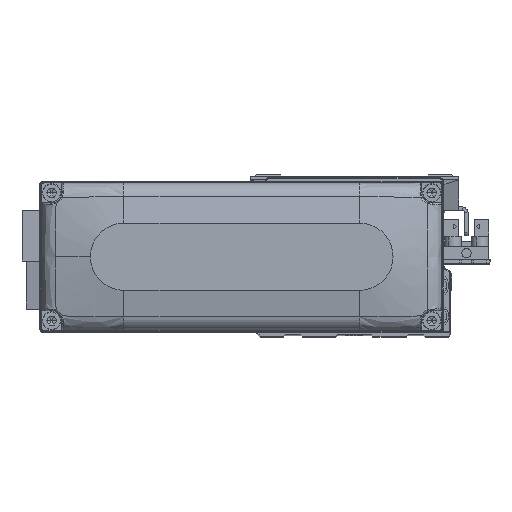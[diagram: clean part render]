
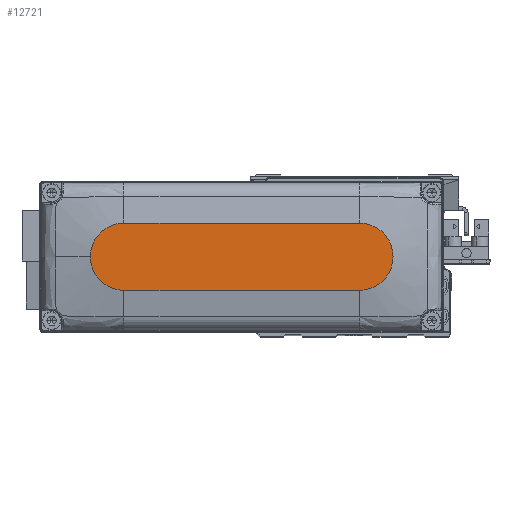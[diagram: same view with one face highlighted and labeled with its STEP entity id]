
A CAD part, top view. The second image highlights one B-rep face of the part: STEP entity #12721.
In plain terms, the highlighted planar face has unit normal (0, 0, 1).
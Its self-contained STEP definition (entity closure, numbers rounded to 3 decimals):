
#90 = DIRECTION ( 'NONE',  ( 1., 0., 0. ) ) ;
#801 = CARTESIAN_POINT ( 'NONE',  ( 0., 0., 28. ) ) ;
#841 = DIRECTION ( 'NONE',  ( 1., 0., 0. ) ) ;
#3408 = CARTESIAN_POINT ( 'NONE',  ( -35., 10., 28. ) ) ;
#3658 = DIRECTION ( 'NONE',  ( 1., 0., 0. ) ) ;
#4892 = EDGE_CURVE ( 'NONE', #11598, #23067, #16542, .T. ) ;
#5017 = DIRECTION ( 'NONE',  ( 0., 0., 1. ) ) ;
#5340 = AXIS2_PLACEMENT_3D ( 'NONE', #15796, #28393, #90 ) ;
#7317 = ORIENTED_EDGE ( 'NONE', *, *, #29816, .T. ) ;
#8254 = EDGE_CURVE ( 'NONE', #23067, #40611, #14983, .T. ) ;
#11222 = EDGE_CURVE ( 'NONE', #40611, #23772, #23142, .T. ) ;
#11598 = VERTEX_POINT ( 'NONE', #18624 ) ;
#11868 = CARTESIAN_POINT ( 'NONE',  ( 45., 0., 28. ) ) ;
#12721 = ADVANCED_FACE ( 'NONE', ( #16503 ), #29102, .T. ) ;
#13397 = DIRECTION ( 'NONE',  ( 0., 0., 1. ) ) ;
#14644 = EDGE_LOOP ( 'NONE', ( #7317, #40061, #24710, #17975, #28866 ) ) ;
#14983 = CIRCLE ( 'NONE', #38097, 10. ) ;
#15796 = CARTESIAN_POINT ( 'NONE',  ( 35., 0., 28. ) ) ;
#16009 = DIRECTION ( 'NONE',  ( -1., 0., 0. ) ) ;
#16503 = FACE_OUTER_BOUND ( 'NONE', #14644, .T. ) ;
#16542 = LINE ( 'NONE', #29142, #20798 ) ;
#17620 = DIRECTION ( 'NONE',  ( 1., 0., 0. ) ) ;
#17975 = ORIENTED_EDGE ( 'NONE', *, *, #8254, .T. ) ;
#18624 = CARTESIAN_POINT ( 'NONE',  ( -35., -10., 28. ) ) ;
#18833 = AXIS2_PLACEMENT_3D ( 'NONE', #33327, #5017, #17620 ) ;
#19363 = CARTESIAN_POINT ( 'NONE',  ( 35., 0., 28. ) ) ;
#20798 = VECTOR ( 'NONE', #841, 1000. ) ;
#22739 = CARTESIAN_POINT ( 'NONE',  ( 35., -10., 28. ) ) ;
#23067 = VERTEX_POINT ( 'NONE', #22739 ) ;
#23142 = CIRCLE ( 'NONE', #5340, 10. ) ;
#23772 = VERTEX_POINT ( 'NONE', #37915 ) ;
#24710 = ORIENTED_EDGE ( 'NONE', *, *, #4892, .T. ) ;
#25996 = DIRECTION ( 'NONE',  ( 1., 0., 0. ) ) ;
#26329 = CARTESIAN_POINT ( 'NONE',  ( -35., 10., 28. ) ) ;
#26538 = AXIS2_PLACEMENT_3D ( 'NONE', #801, #13397, #25996 ) ;
#27394 = EDGE_CURVE ( 'NONE', #28613, #11598, #36658, .T. ) ;
#28129 = VECTOR ( 'NONE', #16009, 1000. ) ;
#28393 = DIRECTION ( 'NONE',  ( 0., 0., 1. ) ) ;
#28613 = VERTEX_POINT ( 'NONE', #26329 ) ;
#28866 = ORIENTED_EDGE ( 'NONE', *, *, #11222, .T. ) ;
#29102 = PLANE ( 'NONE',  #26538 ) ;
#29142 = CARTESIAN_POINT ( 'NONE',  ( -35., -10., 28. ) ) ;
#29816 = EDGE_CURVE ( 'NONE', #23772, #28613, #31712, .T. ) ;
#31712 = LINE ( 'NONE', #3408, #28129 ) ;
#31967 = DIRECTION ( 'NONE',  ( 0., 0., 1. ) ) ;
#33327 = CARTESIAN_POINT ( 'NONE',  ( -35., 0., 28. ) ) ;
#36658 = CIRCLE ( 'NONE', #18833, 10. ) ;
#37915 = CARTESIAN_POINT ( 'NONE',  ( 35., 10., 28. ) ) ;
#38097 = AXIS2_PLACEMENT_3D ( 'NONE', #19363, #31967, #3658 ) ;
#40061 = ORIENTED_EDGE ( 'NONE', *, *, #27394, .T. ) ;
#40611 = VERTEX_POINT ( 'NONE', #11868 ) ;
